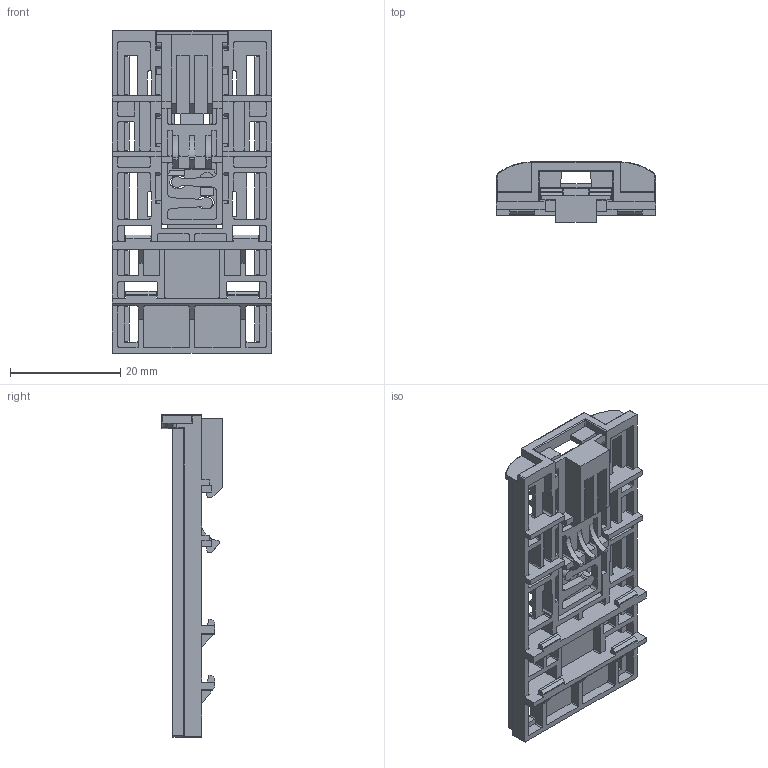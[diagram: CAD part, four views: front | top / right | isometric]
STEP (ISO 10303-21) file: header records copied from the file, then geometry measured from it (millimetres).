
FILE_DESCRIPTION(/* description */ (''),/* implementation_level */ '2;1');
FILE_NAME(/* name */ 'JUT15-竖式安装脚.stp',/* time_stamp */ '2025-03-20T09:36:41+08:00',/* author */ (''),/* organization */ (''),/* preprocessor_version */ 'ST-DEVELOPER v16.7',/* originating_system */ 'SIEMENS PLM Software NX 12.0',/* authorisation */ '');
FILE_SCHEMA (('AP203_CONFIGURATION_CONTROLLED_3D_DESIGN_OF_MECHANICAL_PARTS_AND_ASSEMBLIES_MIM_LF { 1 0 10303 403 2 1 2}'));
Length unit declared in the file: millimetre
Products named in the file (1): JUT15-6X2.5 ASSY_stp
Bounding box: 28.8 x 10.9 x 58.4 mm (x, y, z)
Volume: 3917.7 mm3; surface area: 7833.4 mm2
Topology: 2 solids, 2 shells, 794 faces, 2443 edges, 1611 vertices
Faces by surface type: plane 494, cylinder 280, torus 14, bspline 4, sphere 2
Entity records: 27635 total; most frequent: CARTESIAN_POINT 5110, ORIENTED_EDGE 4886, DIRECTION 4594, EDGE_CURVE 2443, LINE 1854, VECTOR 1854, VERTEX_POINT 1611, AXIS2_PLACEMENT_3D 1370
